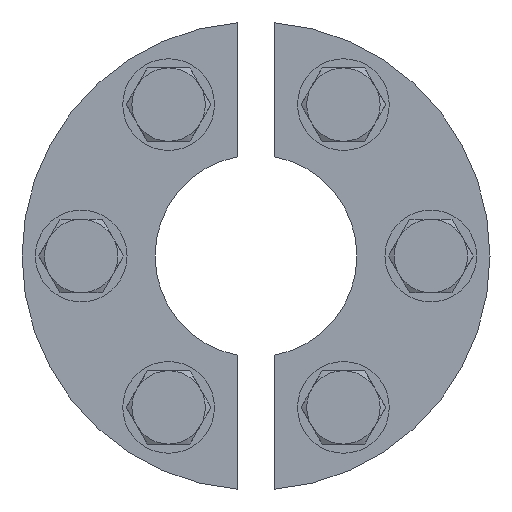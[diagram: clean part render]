
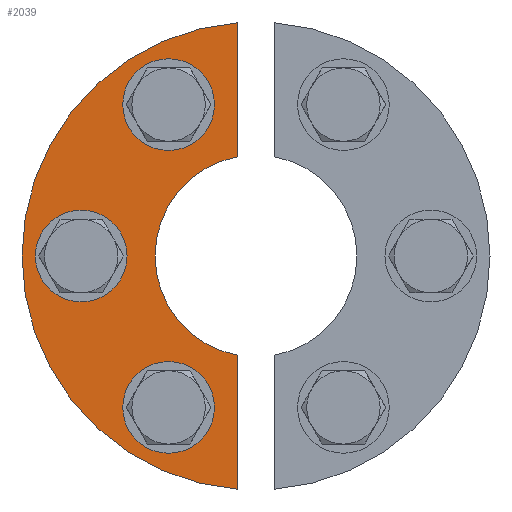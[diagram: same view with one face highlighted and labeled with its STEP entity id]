
A CAD part, left-side view. The second image highlights one B-rep face of the part: STEP entity #2039.
In plain terms, the highlighted planar face has unit normal (-1, 0, 0).
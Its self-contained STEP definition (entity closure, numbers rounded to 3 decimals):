
#101=CARTESIAN_POINT('',(-9.5,16.55,-4.33));
#102=VERTEX_POINT('',#101);
#103=CARTESIAN_POINT('',(-9.5,19.05,0.));
#104=DIRECTION('',(1.0,0.0,0.0));
#105=DIRECTION('',(0.0,-0.5,-0.866));
#106=AXIS2_PLACEMENT_3D('',#103,#104,#105);
#107=CIRCLE('',#106,5.0);
#108=EDGE_CURVE('',#102,#102,#107,.T.);
#697=CARTESIAN_POINT('',(-9.5,12.025,12.168));
#698=VERTEX_POINT('',#697);
#699=CARTESIAN_POINT('',(-9.5,9.525,16.498));
#700=DIRECTION('',(1.0,0.0,0.0));
#701=DIRECTION('',(0.0,0.5,-0.866));
#702=AXIS2_PLACEMENT_3D('',#699,#700,#701);
#703=CIRCLE('',#702,5.0);
#704=EDGE_CURVE('',#698,#698,#703,.T.);
#1293=CARTESIAN_POINT('',(-9.5,4.525,-16.498));
#1294=VERTEX_POINT('',#1293);
#1295=CARTESIAN_POINT('',(-9.5,9.525,-16.498));
#1296=DIRECTION('',(1.0,0.0,0.0));
#1297=DIRECTION('',(0.0,-1.0,0.0));
#1298=AXIS2_PLACEMENT_3D('',#1295,#1296,#1297);
#1299=CIRCLE('',#1298,5.0);
#1300=EDGE_CURVE('',#1294,#1294,#1299,.T.);
#1921=CARTESIAN_POINT('',(-9.5,2.,25.421));
#1922=VERTEX_POINT('',#1921);
#1940=CARTESIAN_POINT('',(-9.5,2.,-25.421));
#1941=VERTEX_POINT('',#1940);
#1948=CARTESIAN_POINT('',(-9.5,0.,0.0));
#1949=DIRECTION('',(-1.0,0.0,0.0));
#1950=DIRECTION('',(0.0,-1.0,0.0));
#1951=AXIS2_PLACEMENT_3D('',#1948,#1949,#1950);
#1952=CIRCLE('',#1951,25.5);
#1953=EDGE_CURVE('',#1922,#1941,#1952,.T.);
#1999=CARTESIAN_POINT('',(-9.5,-18.25,0.0));
#2000=DIRECTION('',(-1.0,0.0,0.0));
#2001=DIRECTION('',(0.0,0.0,1.0));
#2002=AXIS2_PLACEMENT_3D('',#1999,#2000,#2001);
#2003=PLANE('',#2002);
#2004=CARTESIAN_POINT('',(-9.5,2.,10.817));
#2005=VERTEX_POINT('',#2004);
#2006=CARTESIAN_POINT('',(-9.5,2.,10.817));
#2007=DIRECTION('',(0.0,0.0,1.0));
#2008=VECTOR('',#2007,14.605);
#2009=LINE('',#2006,#2008);
#2010=EDGE_CURVE('',#2005,#1922,#2009,.T.);
#2011=ORIENTED_EDGE('',*,*,#2010,.T.);
#2012=ORIENTED_EDGE('',*,*,#1953,.T.);
#2013=CARTESIAN_POINT('',(-9.5,2.,-10.817));
#2014=VERTEX_POINT('',#2013);
#2015=CARTESIAN_POINT('',(-9.5,2.,-25.421));
#2016=DIRECTION('',(0.0,0.0,1.0));
#2017=VECTOR('',#2016,14.605);
#2018=LINE('',#2015,#2017);
#2019=EDGE_CURVE('',#1941,#2014,#2018,.T.);
#2020=ORIENTED_EDGE('',*,*,#2019,.T.);
#2021=CARTESIAN_POINT('',(-9.5,0.,0.0));
#2022=DIRECTION('',(-1.0,0.0,0.0));
#2023=DIRECTION('',(0.0,-1.0,0.0));
#2024=AXIS2_PLACEMENT_3D('',#2021,#2022,#2023);
#2025=CIRCLE('',#2024,11.0);
#2026=EDGE_CURVE('',#2005,#2014,#2025,.T.);
#2027=ORIENTED_EDGE('',*,*,#2026,.F.);
#2028=EDGE_LOOP('',(#2011,#2012,#2020,#2027));
#2029=FACE_OUTER_BOUND('',#2028,.T.);
#2030=ORIENTED_EDGE('',*,*,#108,.T.);
#2031=EDGE_LOOP('',(#2030));
#2032=FACE_BOUND('',#2031,.T.);
#2033=ORIENTED_EDGE('',*,*,#704,.T.);
#2034=EDGE_LOOP('',(#2033));
#2035=FACE_BOUND('',#2034,.T.);
#2036=ORIENTED_EDGE('',*,*,#1300,.T.);
#2037=EDGE_LOOP('',(#2036));
#2038=FACE_BOUND('',#2037,.T.);
#2039=ADVANCED_FACE('',(#2029,#2032,#2035,#2038),#2003,.T.);
